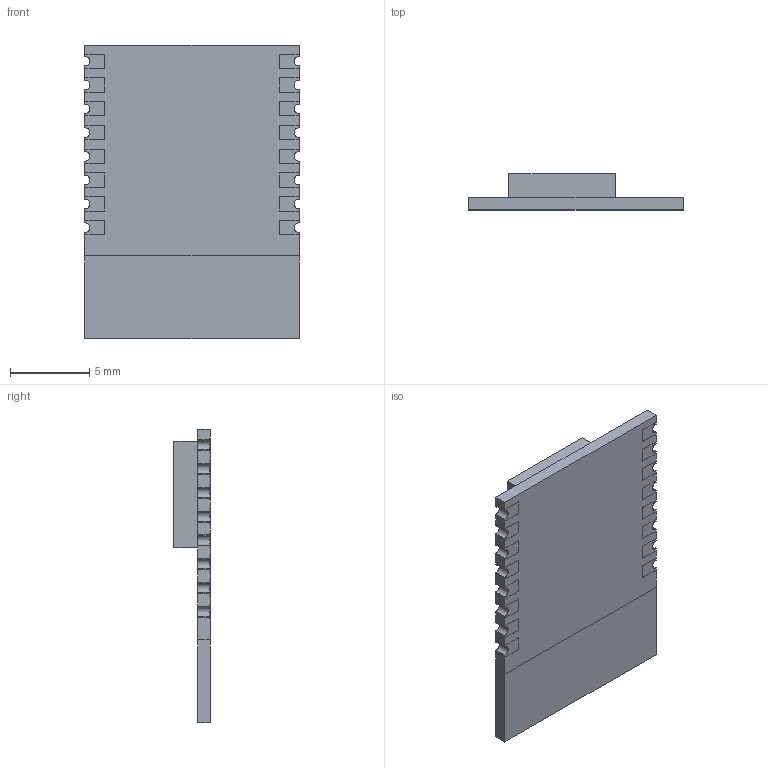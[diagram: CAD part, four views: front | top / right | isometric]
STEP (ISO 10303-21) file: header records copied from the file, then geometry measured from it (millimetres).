
FILE_DESCRIPTION (( 'STEP AP214' ), '1' );
FILE_NAME ('317030001.STEP', '2023-11-25T09:46:40', ( '' ), ( '' ), 'SwSTEP 2.0', 'SolidWorks 2021', '' );
FILE_SCHEMA (( 'AUTOMOTIVE_DESIGN' ));
Length unit declared in the file: millimetre
Products named in the file (1): 317030001
Bounding box: 13.5 x 2.3 x 18.5 mm (x, y, z)
Volume: 265.6 mm3; surface area: 762.7 mm2
Topology: 19 solids, 19 shells, 274 faces, 708 edges, 472 vertices
Faces by surface type: plane 226, cylinder 48
Entity records: 8530 total; most frequent: CARTESIAN_POINT 1455, ORIENTED_EDGE 1416, DIRECTION 1354, EDGE_CURVE 708, LINE 612, VECTOR 612, VERTEX_POINT 472, AXIS2_PLACEMENT_3D 371
